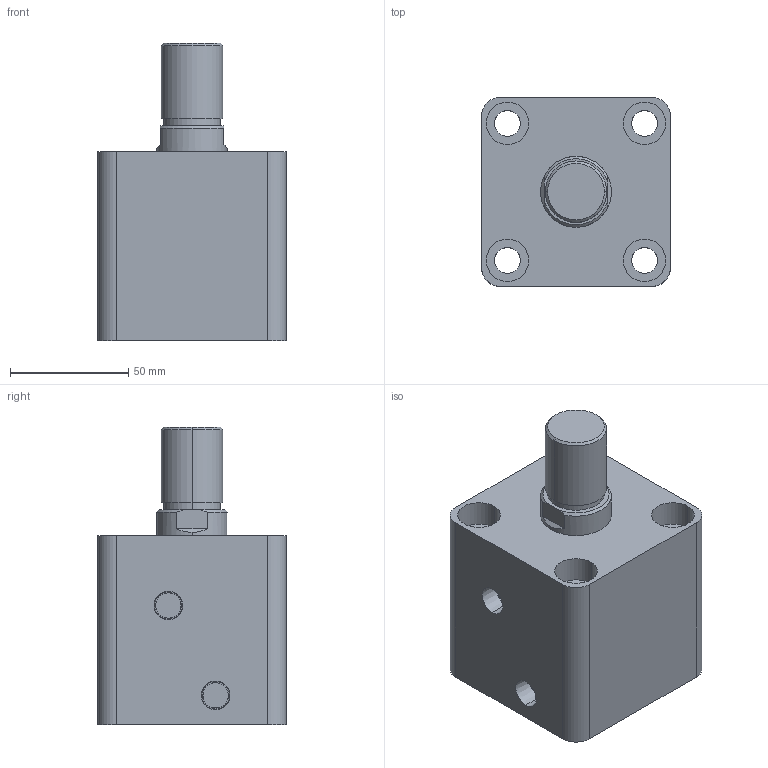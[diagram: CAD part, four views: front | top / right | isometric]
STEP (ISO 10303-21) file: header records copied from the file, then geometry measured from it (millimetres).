
FILE_DESCRIPTION (( 'STEP AP203' ), '1' );
FILE_NAME ('HTB-SD50-20W.STEP', '2019-10-07T07:07:08', ( '微软用户' ), ( '微软中国' ), 'SwSTEP 2.0', 'SolidWorks 2012', '' );
FILE_SCHEMA (( 'CONFIG_CONTROL_DESIGN' ));
Length unit declared in the file: millimetre
Products named in the file (3): HTB-SD50-20W; HTB-SD50-20W活塞杆; HTB-SD50-20掛极
Assembly tree (2 placements, depth 2):
  HTB-SD50-20W
    HTB-SD50-20掛极
    HTB-SD50-20W活塞杆
Bounding box: 80 x 80 x 126 mm (x, y, z)
Volume: 461435.9 mm3; surface area: 77429.7 mm2
Topology: 2 solids, 2 shells, 87 faces, 190 edges, 124 vertices
Faces by surface type: cylinder 44, plane 29, cone 8, torus 6
Entity records: 2761 total; most frequent: DIRECTION 478, CARTESIAN_POINT 434, ORIENTED_EDGE 380, AXIS2_PLACEMENT_3D 204, EDGE_CURVE 190, VERTEX_POINT 124, EDGE_LOOP 112, CIRCLE 112
